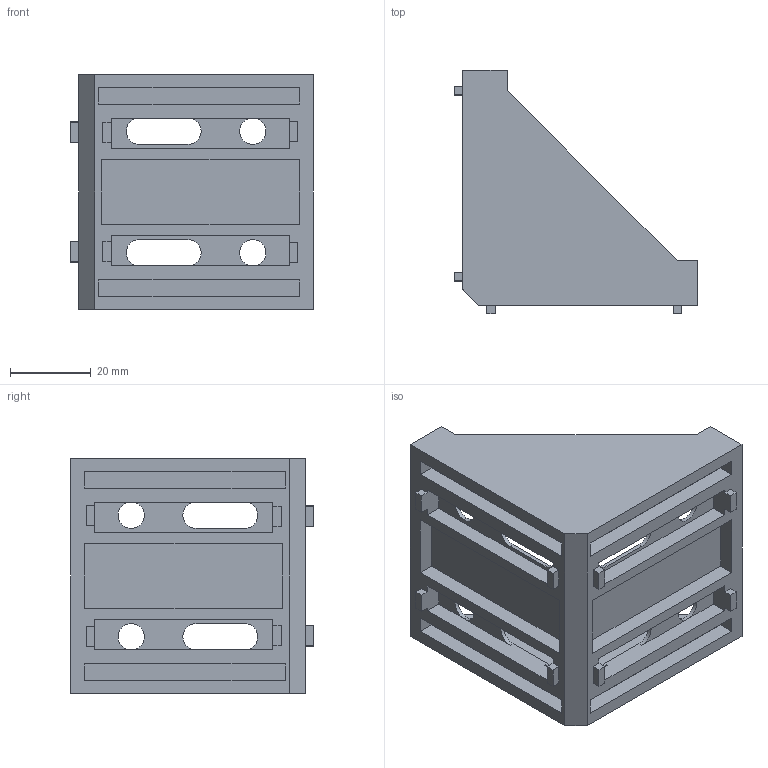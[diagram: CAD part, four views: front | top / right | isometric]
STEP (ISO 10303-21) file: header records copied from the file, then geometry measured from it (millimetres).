
FILE_DESCRIPTION (( 'STEP AP203' ), '1' );
FILE_NAME ('61－CE-RA6060G-6.STEP', '2015-07-08T01:39:11', ( '' ), ( '' ), 'SwSTEP 2.0', 'SolidWorks 2013', '' );
FILE_SCHEMA (( 'CONFIG_CONTROL_DESIGN' ));
Length unit declared in the file: millimetre
Products named in the file (1): 61－CE-RA6060G-6
Bounding box: 60 x 60 x 58 mm (x, y, z)
Volume: 26986.5 mm3; surface area: 23895.3 mm2
Topology: 1 solids, 1 shells, 121 faces, 345 edges, 228 vertices
Faces by surface type: plane 103, cylinder 18
Entity records: 3998 total; most frequent: CARTESIAN_POINT 695, ORIENTED_EDGE 690, DIRECTION 627, EDGE_CURVE 345, LINE 307, VECTOR 307, VERTEX_POINT 228, AXIS2_PLACEMENT_3D 160
